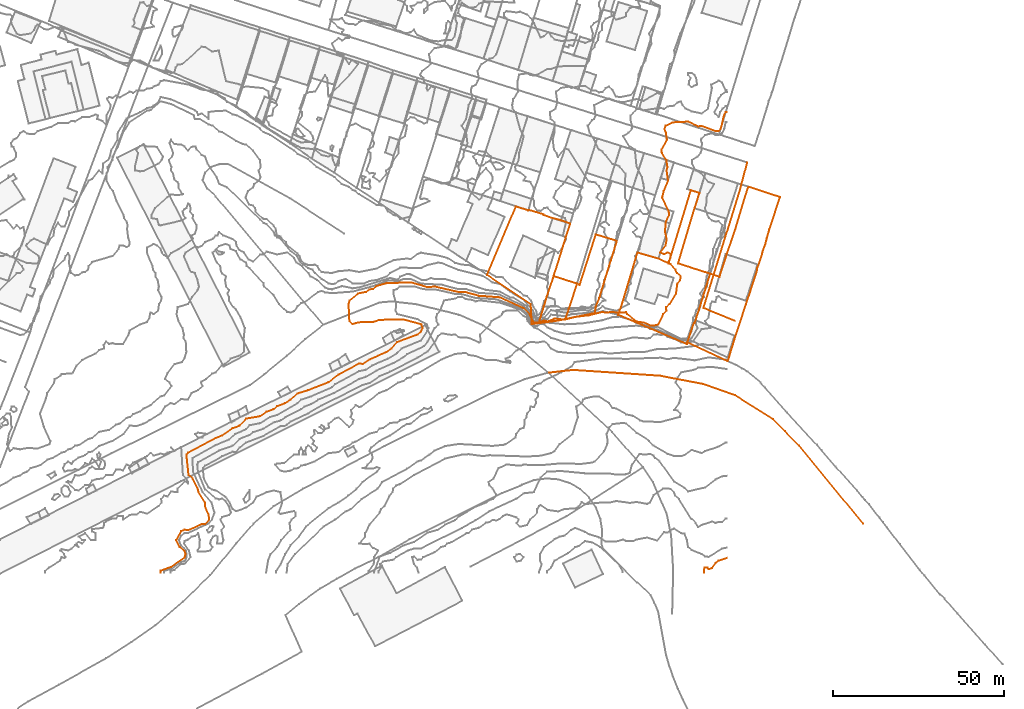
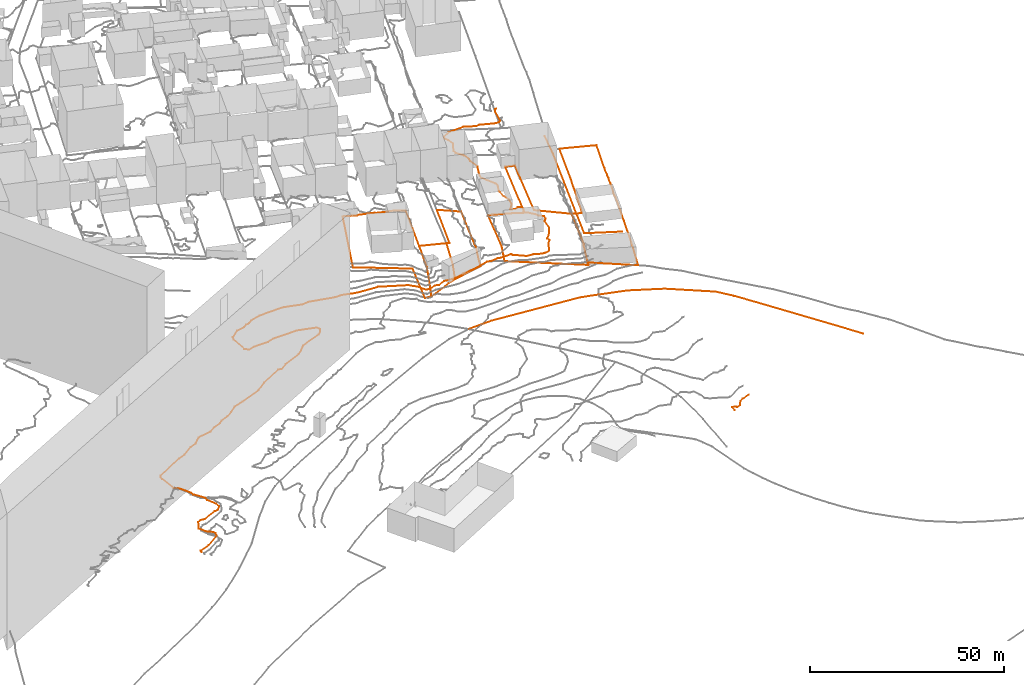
# Not in any storey, part 194 of 419: 9 proxies.
"""IFC2X3 model written with IfcOpenShell, lengths in metres."""

from ifc_helpers import new_model, entity, si_unit, frame, origin_with_axes, place, context, subcontext, project, element, save


model = new_model("IFC2X3")

# Units and contexts
model_context = context("Model", 3, precision=1e-05, world=origin_with_axes())
body_context = subcontext(model_context, "Body", "Model", "MODEL_VIEW")
ifc_project = project(units=[si_unit("AREAUNIT", "SQUARE_METRE"), si_unit("LENGTHUNIT", "METRE")], contexts=[model_context])

# Proxies
proxy_1_placement = place(None, frame((924.1920204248, 56.7976909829, 64.1), z_axis=(0.0, 0.0, 1.0), x_axis=(1.0, 0.0, 0.0)))
element("IfcBuildingElementProxy", 1, at=proxy_1_placement, Name="Route 7", ObjectType="NOTDEFINED", context=body_context, shape_type="GeometricCurveSet", body=[
    entity("IfcGeometricCurveSet", [entity("IfcPolyline", [entity("IfcCartesianPoint", [0.0, 0.0, 0.0]), entity("IfcCartesianPoint", [7.4, 0.7999999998, -0.4]), entity("IfcCartesianPoint", [32.7000000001, -0.9000000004, -0.9]), entity("IfcCartesianPoint", [45.3, -3.3000000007, -1.7]), entity("IfcCartesianPoint", [54.6, -6.6000000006, -2.4]), entity("IfcCartesianPoint", [65.8, -13.6000000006, -3.0]), entity("IfcCartesianPoint", [69.2000000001, -17.1000000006, -3.4]), entity("IfcCartesianPoint", [73.4, -21.3000000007, -4.3]), entity("IfcCartesianPoint", [92.1, -44.1000000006, -6.9])])]),
])
proxy_2_placement = place(None, frame((969.5920204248, 75.6976909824, 66.9), z_axis=(0.0, 0.0, 1.0), x_axis=(1.0, 0.0, 0.0)))
element("IfcBuildingElementProxy", 2, at=proxy_2_placement, Name="Route 257", ObjectType="NOTDEFINED", context=body_context, shape_type="GeometricCurveSet", body=[
    entity("IfcGeometricCurveSet", [entity("IfcPolyline", [entity("IfcCartesianPoint", [9.3, -3.7999999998, -0.4]), entity("IfcCartesianPoint", [0.0, 0.0, 0.0]), entity("IfcCartesianPoint", [10.7, 34.6000000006, 0.4]), entity("IfcCartesianPoint", [12.8, 42.5, 0.3])])]),
])
proxy_3_placement = place(None, frame((906.3620204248, 85.377690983, 72.4475527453), z_axis=(0.0, 0.0, 1.0), x_axis=(1.0, 0.0, 0.0)))
element("IfcBuildingElementProxy", 3, at=proxy_3_placement, Name="Cadastre 203", ObjectType="NOTDEFINED", context=body_context, shape_type="GeometricCurveSet", body=[
    entity("IfcGeometricCurveSet", [entity("IfcPolyline", [entity("IfcCartesianPoint", [15.22, -14.1000000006, -5.8571238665]), entity("IfcCartesianPoint", [13.13, -14.3700000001, -5.5476822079]), entity("IfcCartesianPoint", [12.8, -8.6000000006, 0.3344776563]), entity("IfcCartesianPoint", [0.0, 0.0, 0.0]), entity("IfcCartesianPoint", [8.46, 19.9899999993, 0.9744168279]), entity("IfcCartesianPoint", [12.1, 18.8099999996, 0.7151001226]), entity("IfcCartesianPoint", [12.1800000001, 18.9699999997, 0.7003964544]), entity("IfcCartesianPoint", [16.55, 17.6499999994, 0.7164822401]), entity("IfcCartesianPoint", [16.55, 17.4499999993, 0.7152024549]), entity("IfcCartesianPoint", [19.2, 16.5499999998, 0.6908596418]), entity("IfcCartesianPoint", [21.67, 15.9199999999, 0.6878884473]), entity("IfcCartesianPoint", [24.33, 14.96, 0.2321045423]), entity("IfcCartesianPoint", [23.05, 11.04, 0.4848878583]), entity("IfcCartesianPoint", [21.89, 7.2399999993, 0.2160457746]), entity("IfcCartesianPoint", [19.48, -0.4100000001, 0.1691952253]), entity("IfcCartesianPoint", [19.1800000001, -1.4500000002, 0.1413892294]), entity("IfcCartesianPoint", [17.4300000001, -6.5100000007, 0.3359688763]), entity("IfcCartesianPoint", [16.62, -9.3300000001, -0.0353773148]), entity("IfcCartesianPoint", [15.41, -13.1800000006, -3.7313148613]), entity("IfcCartesianPoint", [15.22, -14.1000000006, -5.8571238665])])]),
])
proxy_4_placement = place(None, frame((921.5820204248, 71.2776909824, 66.5904288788), z_axis=(0.0, 0.0, 1.0), x_axis=(1.0, 0.0, 0.0)))
element("IfcBuildingElementProxy", 4, at=proxy_4_placement, Name="Cadastre 205", ObjectType="NOTDEFINED", context=body_context, shape_type="GeometricCurveSet", body=[
    entity("IfcGeometricCurveSet", [entity("IfcPolyline", [entity("IfcCartesianPoint", [7.6800000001, 1.1699999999, 1.9825889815]), entity("IfcCartesianPoint", [5.5800000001, 0.7300000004, 1.6688095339]), entity("IfcCartesianPoint", [0.0, 0.0, 0.0]), entity("IfcCartesianPoint", [0.1900000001, 0.9199999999, 2.1258090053]), entity("IfcCartesianPoint", [1.4, 4.7700000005, 5.8217465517]), entity("IfcCartesianPoint", [2.2100000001, 7.5899999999, 6.1930927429]), entity("IfcCartesianPoint", [3.9600000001, 12.6500000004, 5.9985130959]), entity("IfcCartesianPoint", [4.26, 13.6900000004, 6.0263190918]), entity("IfcCartesianPoint", [11.12, 11.54, 5.7915623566]), entity("IfcCartesianPoint", [8.72, 4.1200000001, 4.5839709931]), entity("IfcCartesianPoint", [7.6800000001, 1.1699999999, 1.9825889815])])]),
])
proxy_5_placement = place(None, frame((929.2620204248, 72.4476909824, 68.5730178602), z_axis=(0.0, 0.0, 1.0), x_axis=(1.0, 0.0, 0.0)))
element("IfcBuildingElementProxy", 5, at=proxy_5_placement, Name="Cadastre 208", ObjectType="NOTDEFINED", context=body_context, shape_type="GeometricCurveSet", body=[
    entity("IfcGeometricCurveSet", [entity("IfcPolyline", [entity("IfcCartesianPoint", [0.0, 0.0, 0.0]), entity("IfcCartesianPoint", [1.0399999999, 2.9500000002, 2.6013820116]), entity("IfcCartesianPoint", [3.4399999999, 10.3700000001, 3.8089733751]), entity("IfcCartesianPoint", [4.1699999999, 10.0100000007, 3.8304652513]), entity("IfcCartesianPoint", [8.89, 24.7300000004, 3.6716449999]), entity("IfcCartesianPoint", [15.0499999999, 22.8200000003, 2.1245144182]), entity("IfcCartesianPoint", [10.63, 8.4700000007, 2.2895421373]), entity("IfcCartesianPoint", [9.9299999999, 6.21, 2.6701436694]), entity("IfcCartesianPoint", [8.89, 3.46, 1.6730710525]), entity("IfcCartesianPoint", [8.61, 1.7600000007, 0.0376688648]), entity("IfcCartesianPoint", [0.0, 0.0, 0.0])])]),
])
proxy_6_placement = place(None, frame((944.7020204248, 73.6976909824, 68.0531022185), z_axis=(0.0, 0.0, 1.0), x_axis=(1.0, 0.0, 0.0)))
element("IfcBuildingElementProxy", 6, at=proxy_6_placement, Name="Cadastre 323", ObjectType="NOTDEFINED", context=body_context, shape_type="GeometricCurveSet", body=[
    entity("IfcGeometricCurveSet", [entity("IfcPolyline", [entity("IfcCartesianPoint", [26.87, 12.0100000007, -1.789529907]), entity("IfcCartesianPoint", [22.35, -2.4399999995, -1.0640097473]), entity("IfcCartesianPoint", [22.11, -2.3899999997, -0.8581883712]), entity("IfcCartesianPoint", [20.17, -8.0299999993, -2.6017383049]), entity("IfcCartesianPoint", [20.0700000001, -8.5800000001, -3.0297105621]), entity("IfcCartesianPoint", [0.0, 0.0, 0.0]), entity("IfcCartesianPoint", [0.4500000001, 1.3200000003, 0.9747720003]), entity("IfcCartesianPoint", [1.14, 3.3300000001, 2.1698719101]), entity("IfcCartesianPoint", [5.62, 18.1900000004, 1.5243679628]), entity("IfcCartesianPoint", [11.77, 16.3900000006, 1.0045409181]), entity("IfcCartesianPoint", [14.7100000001, 15.04, 0.9815666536]), entity("IfcCartesianPoint", [21.23, 36.3900000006, 0.2600452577]), entity("IfcCartesianPoint", [23.74, 35.5600000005, 0.2104761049]), entity("IfcCartesianPoint", [22.3, 31.1100000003, 0.3568103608]), entity("IfcCartesianPoint", [17.4700000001, 14.9900000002, 0.8317272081]), entity("IfcCartesianPoint", [26.87, 12.0100000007, -1.789529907])])]),
])
proxy_7_placement = place(None, frame((964.8720204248, 65.667690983, 65.4513639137), z_axis=(0.0, 0.0, 1.0), x_axis=(1.0, 0.0, 0.0)))
element("IfcBuildingElementProxy", 7, at=proxy_7_placement, Name="Cadastre 325", ObjectType="NOTDEFINED", context=body_context, shape_type="GeometricCurveSet", body=[
    entity("IfcGeometricCurveSet", [entity("IfcPolyline", [entity("IfcCartesianPoint", [27.0699999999, 42.3999999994, 1.7189342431]), entity("IfcCartesianPoint", [23.98, 32.9899999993, 1.329436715]), entity("IfcCartesianPoint", [23.22, 30.29, 1.1174355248]), entity("IfcCartesianPoint", [23.14, 30.0099999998, 1.1230367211]), entity("IfcCartesianPoint", [22.83, 28.8599999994, 1.0851352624]), entity("IfcCartesianPoint", [22.04, 26.5199999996, 1.0028339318]), entity("IfcCartesianPoint", [21.91, 25.9699999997, 1.0138362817]), entity("IfcCartesianPoint", [20.48, 21.75, 0.7534331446]), entity("IfcCartesianPoint", [20.4299999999, 21.1099999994, 0.6804326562]), entity("IfcCartesianPoint", [17.16, 11.1199999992, 0.4825372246]), entity("IfcCartesianPoint", [13.8, 0.96, 0.0261342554]), entity("IfcCartesianPoint", [12.35, -3.8800000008, -1.3708636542]), entity("IfcCartesianPoint", [11.8099999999, -5.5200000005, -1.6713641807]), entity("IfcCartesianPoint", [0.0, 0.0, 0.0]), entity("IfcCartesianPoint", [1.9399999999, 5.6399999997, 1.7435499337]), entity("IfcCartesianPoint", [2.1799999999, 5.5899999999, 1.5377285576]), entity("IfcCartesianPoint", [6.7, 20.04, 0.8122083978]), entity("IfcCartesianPoint", [9.39, 19.0899999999, 0.6842569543]), entity("IfcCartesianPoint", [11.24, 24.6999999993, 1.0662329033]), entity("IfcCartesianPoint", [11.5699999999, 25.7199999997, 1.0191372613]), entity("IfcCartesianPoint", [12.84, 29.4899999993, 1.116637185]), entity("IfcCartesianPoint", [14.08, 33.1899999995, 1.3454355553]), entity("IfcCartesianPoint", [17.71, 45.2599999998, 1.965733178]), entity("IfcCartesianPoint", [18.11, 45.3999999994, 1.9755331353]), entity("IfcCartesianPoint", [27.0699999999, 42.3999999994, 1.7189342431])])]),
])
proxy_8_placement = place(None, frame((969.8062983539, -1.6023090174, 58.0), z_axis=(0.0, 0.0, 1.0), x_axis=(1.0, 0.0, 0.0)))
element("IfcBuildingElementProxy", 8, at=proxy_8_placement, Name="Contour 58.0 m", ObjectType="NOTDEFINED", context=body_context, shape_type="GeometricCurveSet", body=[
    entity("IfcGeometricCurveSet", [entity("IfcPolyline", [entity("IfcCartesianPoint", [6.7857220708, 4.357166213, 0.0]), entity("IfcCartesianPoint", [4.2857220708, 3.4999800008, 0.0]), entity("IfcCartesianPoint", [3.2857220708, 2.8076968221, 0.0]), entity("IfcCartesianPoint", [2.2857220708, 1.3333280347, 0.0]), entity("IfcCartesianPoint", [1.2857220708, 0.9999499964, 0.0]), entity("IfcCartesianPoint", [0.9524311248, 1.5, 0.0]), entity("IfcCartesianPoint", [0.0857220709, 1.5, 0.0]), entity("IfcCartesianPoint", [0.0, 0.0, 0.0])])]),
])
proxy_9_placement = place(None, frame((811.0235234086, -1.6023090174, 69.0), z_axis=(0.0, 0.0, 1.0), x_axis=(1.0, 0.0, 0.0)))
element("IfcBuildingElementProxy", 9, at=proxy_9_placement, Name="Contour 69.0 m", ObjectType="NOTDEFINED", context=body_context, shape_type="GeometricCurveSet", body=[
    entity("IfcGeometricCurveSet", [entity("IfcPolyline", [entity("IfcCartesianPoint", [165.5684970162, 134.5476173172, 0.0]), entity("IfcCartesianPoint", [165.0684970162, 134.5476173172, 0.0]), entity("IfcCartesianPoint", [164.5530337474, 133.5, 0.0]), entity("IfcCartesianPoint", [163.6385912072, 129.5, 0.0]), entity("IfcCartesianPoint", [163.0684970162, 128.9245264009, 0.0]), entity("IfcCartesianPoint", [162.0684970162, 128.9135355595, 0.0]), entity("IfcCartesianPoint", [158.0684970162, 130.4589055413, 0.0]), entity("IfcCartesianPoint", [157.0684970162, 130.3292689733, 0.0]), entity("IfcCartesianPoint", [154.0684970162, 131.7142779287, 0.0]), entity("IfcCartesianPoint", [149.568513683, 131.5, 0.0]), entity("IfcCartesianPoint", [147.568513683, 130.5, 0.0]), entity("IfcCartesianPoint", [147.1935208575, 129.5, 0.0]), entity("IfcCartesianPoint", [147.6518144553, 128.5, 0.0]), entity("IfcCartesianPoint", [147.9018515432, 126.5, 0.0]), entity("IfcCartesianPoint", [146.3684893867, 123.5, 0.0]), entity("IfcCartesianPoint", [146.4531214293, 122.5, 0.0]), entity("IfcCartesianPoint", [147.7827931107, 120.5, 0.0]), entity("IfcCartesianPoint", [148.068503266, 118.5, 0.0]), entity("IfcCartesianPoint", [147.8184970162, 117.5, 0.0]), entity("IfcCartesianPoint", [148.2684970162, 114.5, 0.0]), entity("IfcCartesianPoint", [146.9970801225, 111.5, 0.0]), entity("IfcCartesianPoint", [146.5685025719, 109.5, 0.0]), entity("IfcCartesianPoint", [148.4802643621, 105.5, 0.0]), entity("IfcCartesianPoint", [148.568503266, 104.5, 0.0]), entity("IfcCartesianPoint", [147.6399411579, 102.5, 0.0]), entity("IfcCartesianPoint", [147.5060059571, 101.5, 0.0]), entity("IfcCartesianPoint", [147.4018473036, 99.5, 0.0]), entity("IfcCartesianPoint", [147.8920317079, 97.5, 0.0]), entity("IfcCartesianPoint", [147.5129508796, 95.5, 0.0]), entity("IfcCartesianPoint", [145.9018091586, 93.5, 0.0]), entity("IfcCartesianPoint", [147.0684970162, 93.0000055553, 0.0]), entity("IfcCartesianPoint", [148.0684970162, 93.5000142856, 0.0]), entity("IfcCartesianPoint", [149.0684970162, 93.0000250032, 0.0]), entity("IfcCartesianPoint", [149.0684970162, 91.9999749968, 0.0]), entity("IfcCartesianPoint", [148.0685303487, 90.5, 0.0]), entity("IfcCartesianPoint", [149.0684970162, 90.0714441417, 0.0]), entity("IfcCartesianPoint", [150.4018303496, 88.5, 0.0]), entity("IfcCartesianPoint", [150.8377322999, 87.5, 0.0]), entity("IfcCartesianPoint", [151.9885104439, 86.5, 0.0]), entity("IfcCartesianPoint", [151.7827749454, 85.5, 0.0]), entity("IfcCartesianPoint", [150.9802643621, 84.5, 0.0]), entity("IfcCartesianPoint", [150.5923117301, 81.5, 0.0]), entity("IfcCartesianPoint", [148.7236757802, 78.5, 0.0]), entity("IfcCartesianPoint", [147.6547034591, 77.5, 0.0]), entity("IfcCartesianPoint", [147.7607971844, 76.5, 0.0]), entity("IfcCartesianPoint", [146.8684970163, 75.5, 0.0]), entity("IfcCartesianPoint", [145.4133227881, 72.5, 0.0]), entity("IfcCartesianPoint", [144.0684970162, 72.1300572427, 0.0]), entity("IfcCartesianPoint", [143.0684970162, 72.2105255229, 0.0]), entity("IfcCartesianPoint", [141.0684970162, 73.0274721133, 0.0]), entity("IfcCartesianPoint", [139.0684970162, 73.3127654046, 0.0]), entity("IfcCartesianPoint", [136.2753976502, 75.5, 0.0]), entity("IfcCartesianPoint", [136.0684970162, 76.0454640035, 0.0]), entity("IfcCartesianPoint", [133.0684970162, 75.9076095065, 0.0]), entity("IfcCartesianPoint", [132.0684970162, 76.1528938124, 0.0]), entity("IfcCartesianPoint", [130.0684970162, 75.9259243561, 0.0]), entity("IfcCartesianPoint", [129.0684970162, 76.1712338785, 0.0]), entity("IfcCartesianPoint", [125.0684970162, 75.1504844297, 0.0]), entity("IfcCartesianPoint", [121.0684970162, 74.6900843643, 0.0]), entity("IfcCartesianPoint", [118.0684970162, 73.876236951, 0.0]), entity("IfcCartesianPoint", [115.0684970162, 74.1931846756, 0.0]), entity("IfcCartesianPoint", [113.0684970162, 73.35263234, 0.0]), entity("IfcCartesianPoint", [112.0684970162, 73.6201710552, 0.0]), entity("IfcCartesianPoint", [110.0684970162, 72.9906361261, 0.0]), entity("IfcCartesianPoint", [109.0684970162, 73.106634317, 0.0]), entity("IfcCartesianPoint", [107.7968205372, 75.5, 0.0]), entity("IfcCartesianPoint", [106.0684970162, 77.2267066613, 0.0]), entity("IfcCartesianPoint", [99.0684970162, 80.4099113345, 0.0]), entity("IfcCartesianPoint", [93.0684970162, 80.843065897, 0.0]), entity("IfcCartesianPoint", [89.0684970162, 81.9159284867, 0.0]), entity("IfcCartesianPoint", [87.0684970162, 81.9421775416, 0.0]), entity("IfcCartesianPoint", [80.0684970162, 83.553845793, 0.0]), entity("IfcCartesianPoint", [78.0684970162, 83.3561172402, 0.0]), entity("IfcCartesianPoint", [73.0684970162, 84.7777801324, 0.0]), entity("IfcCartesianPoint", [66.0684970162, 84.5198667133, 0.0]), entity("IfcCartesianPoint", [63.0684970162, 83.7077931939, 0.0]), entity("IfcCartesianPoint", [62.0684970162, 82.8760009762, 0.0]), entity("IfcCartesianPoint", [61.0684970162, 82.7101922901, 0.0]), entity("IfcCartesianPoint", [60.0684970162, 82.013891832, 0.0]), entity("IfcCartesianPoint", [57.6594108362, 81.5, 0.0]), entity("IfcCartesianPoint", [55.250296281, 79.5, 0.0]), entity("IfcCartesianPoint", [54.9573670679, 78.5, 0.0]), entity("IfcCartesianPoint", [55.2018133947, 73.5, 0.0]), entity("IfcCartesianPoint", [56.0684970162, 72.6333163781, 0.0]), entity("IfcCartesianPoint", [58.0684970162, 73.1046557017, 0.0]), entity("IfcCartesianPoint", [62.0684970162, 73.2200012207, 0.0]), entity("IfcCartesianPoint", [64.0684970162, 73.8275893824, 0.0]), entity("IfcCartesianPoint", [71.0684970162, 73.9102572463, 0.0]), entity("IfcCartesianPoint", [76.2139540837, 72.5, 0.0]), entity("IfcCartesianPoint", [76.6258744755, 71.5, 0.0]), entity("IfcCartesianPoint", [76.0684970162, 70.4354941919, 0.0]), entity("IfcCartesianPoint", [75.0684970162, 69.5599975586, 0.0]), entity("IfcCartesianPoint", [69.0684970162, 67.3108130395, 0.0]), entity("IfcCartesianPoint", [67.4435059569, 65.5, 0.0]), entity("IfcCartesianPoint", [66.0684970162, 64.454552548, 0.0]), entity("IfcCartesianPoint", [61.0684970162, 62.27550798, 0.0]), entity("IfcCartesianPoint", [59.0684970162, 60.9166640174, 0.0]), entity("IfcCartesianPoint", [58.0684970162, 61.1222237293, 0.0]), entity("IfcCartesianPoint", [52.0684970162, 57.8846198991, 0.0]), entity("IfcCartesianPoint", [49.0684970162, 55.6153806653, 0.0]), entity("IfcCartesianPoint", [43.0684970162, 53.2608677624, 0.0]), entity("IfcCartesianPoint", [40.0684970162, 52.3723459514, 0.0]), entity("IfcCartesianPoint", [38.0684970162, 50.5645058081, 0.0]), entity("IfcCartesianPoint", [36.3647954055, 49.5, 0.0]), entity("IfcCartesianPoint", [34.0684970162, 48.6000061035, 0.0]), entity("IfcCartesianPoint", [33.0684970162, 47.7200012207, 0.0]), entity("IfcCartesianPoint", [31.0684970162, 47.0094288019, 0.0]), entity("IfcCartesianPoint", [29.0684970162, 45.6874940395, 0.0]), entity("IfcCartesianPoint", [25.0684970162, 44.9799957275, 0.0]), entity("IfcCartesianPoint", [23.0684970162, 42.9130496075, 0.0]), entity("IfcCartesianPoint", [21.0684970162, 42.166666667, 0.0]), entity("IfcCartesianPoint", [18.0684970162, 40.0833359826, 0.0]), entity("IfcCartesianPoint", [16.0684970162, 39.3163332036, 0.0]), entity("IfcCartesianPoint", [8.0684970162, 35.0555461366, 0.0]), entity("IfcCartesianPoint", [7.7176249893, 34.5, 0.0]), entity("IfcCartesianPoint", [7.7061794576, 33.5, 0.0]), entity("IfcCartesianPoint", [8.2263854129, 28.5, 0.0]), entity("IfcCartesianPoint", [9.4514753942, 27.5, 0.0]), entity("IfcCartesianPoint", [10.9169799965, 24.5, 0.0]), entity("IfcCartesianPoint", [11.1184979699, 23.5, 0.0]), entity("IfcCartesianPoint", [13.0300416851, 20.5, 0.0]), entity("IfcCartesianPoint", [13.0118954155, 19.5, 0.0]), entity("IfcCartesianPoint", [14.0684970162, 16.9000000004, 0.0]), entity("IfcCartesianPoint", [14.265468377, 15.5, 0.0]), entity("IfcCartesianPoint", [13.0684970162, 14.2424240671, 0.0]), entity("IfcCartesianPoint", [12.0684970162, 14.1524061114, 0.0]), entity("IfcCartesianPoint", [8.0684970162, 12.3968271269, 0.0]), entity("IfcCartesianPoint", [7.0684970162, 12.5428555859, 0.0]), entity("IfcCartesianPoint", [6.0684970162, 12.1046521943, 0.0]), entity("IfcCartesianPoint", [4.6503154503, 9.5, 0.0]), entity("IfcCartesianPoint", [5.6213412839, 7.5, 0.0]), entity("IfcCartesianPoint", [7.0684970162, 6.3000017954, 0.0]), entity("IfcCartesianPoint", [7.3341223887, 5.5, 0.0]), entity("IfcCartesianPoint", [7.0684970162, 4.3823545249, 0.0]), entity("IfcCartesianPoint", [3.0684970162, 1.6999982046, 0.0]), entity("IfcCartesianPoint", [0.0684970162, 0.5694485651, 0.0]), entity("IfcCartesianPoint", [0.0, 0.0, 0.0])])]),
])

save(model, "model.ifc")
